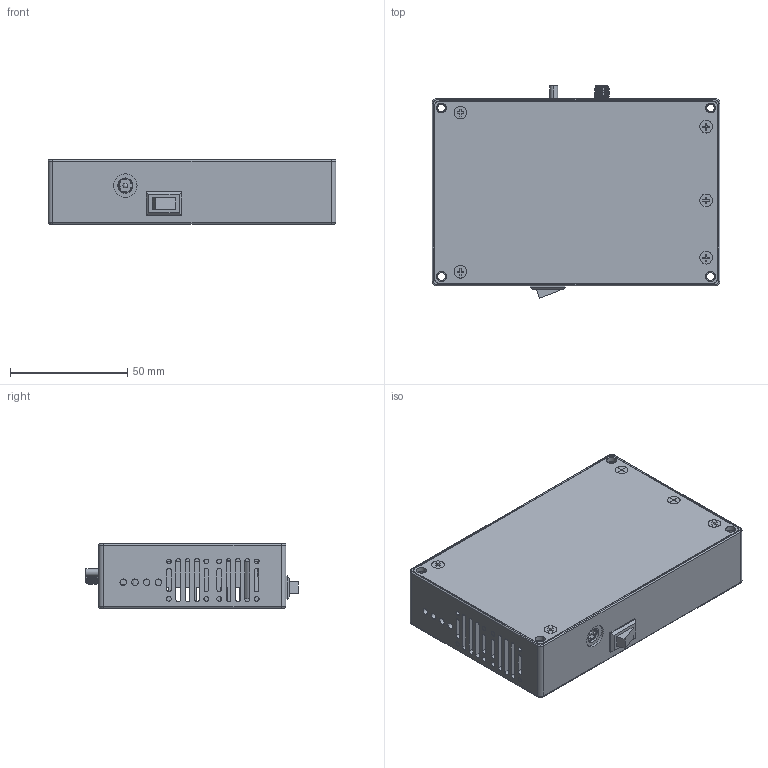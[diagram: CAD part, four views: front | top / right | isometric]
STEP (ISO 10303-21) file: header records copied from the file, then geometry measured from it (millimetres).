
FILE_DESCRIPTION (( 'STEP AP203' ), '1' );
FILE_NAME ('E53.B1S-H10(4郋+等郋).STEP', '2025-07-14T03:02:15', ( 'China' ), ( 'Home' ), 'SwSTEP 2.0', 'SolidWorks 2016', '' );
FILE_SCHEMA (( 'CONFIG_CONTROL_DESIGN' ));
Length unit declared in the file: millimetre
Products named in the file (1): E53.B1S-H10(4郋+等郋)
Bounding box: 123 x 90.74 x 27.52 mm (x, y, z)
Surface area: 57209.9 mm2 (no closed solid volume)
Topology: 0 solids, 41 shells, 495 faces, 1967 edges, 1487 vertices
Faces by surface type: cylinder 274, plane 180, cone 14, torus 12, bspline 12, sphere 3
Entity records: 21976 total; most frequent: CARTESIAN_POINT 5273, DIRECTION 3681, ORIENTED_EDGE 2910, EDGE_CURVE 1956, VERTEX_POINT 1481, AXIS2_PLACEMENT_3D 1378, VECTOR 925, LINE 925
